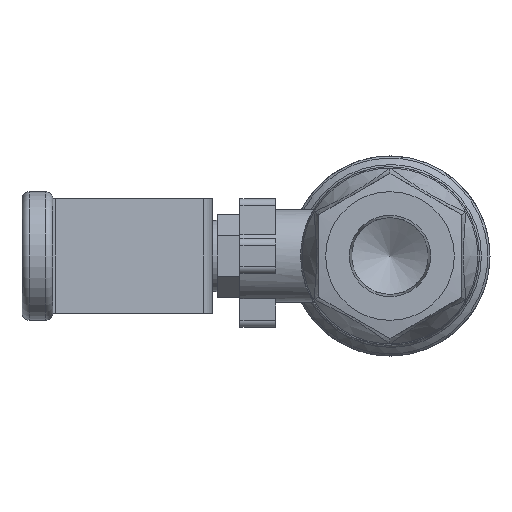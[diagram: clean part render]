
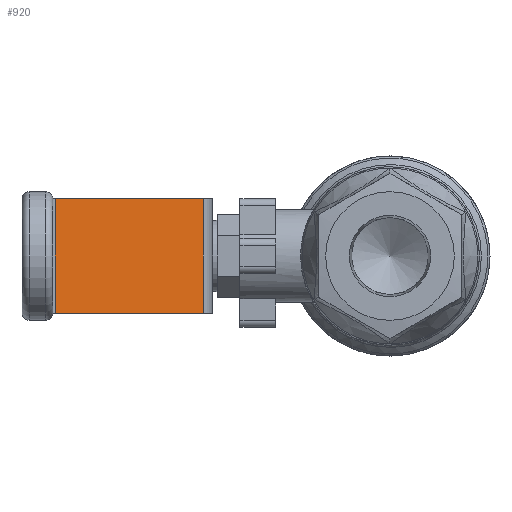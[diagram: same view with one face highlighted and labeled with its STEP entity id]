
A CAD part, left-side view. The second image highlights one B-rep face of the part: STEP entity #920.
In plain terms, the highlighted planar face has unit normal (-0.744, -0.668, 0) as drawn and (0.744, -0.668, 0) by its records, which use the part's own axes.
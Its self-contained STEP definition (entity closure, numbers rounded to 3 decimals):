
#459=CARTESIAN_POINT('',(30.334,22.072,-8.0));
#460=VERTEX_POINT('',#459);
#468=CARTESIAN_POINT('',(11.718,1.328,-8.0));
#469=VERTEX_POINT('',#468);
#470=CARTESIAN_POINT('',(11.718,1.328,-8.0));
#471=DIRECTION('',(0.668,0.744,0.0));
#472=VECTOR('',#471,27.872);
#473=LINE('',#470,#472);
#474=EDGE_CURVE('',#469,#460,#473,.T.);
#561=CARTESIAN_POINT('',(11.718,1.328,8.0));
#562=VERTEX_POINT('',#561);
#579=CARTESIAN_POINT('',(11.718,1.328,-8.0));
#580=DIRECTION('',(0.0,0.0,1.0));
#581=VECTOR('',#580,16.0);
#582=LINE('',#579,#581);
#583=EDGE_CURVE('',#469,#562,#582,.T.);
#651=CARTESIAN_POINT('',(30.334,22.072,8.0));
#652=VERTEX_POINT('',#651);
#653=CARTESIAN_POINT('',(30.334,22.072,8.0));
#654=DIRECTION('',(-0.668,-0.744,0.0));
#655=VECTOR('',#654,27.872);
#656=LINE('',#653,#655);
#657=EDGE_CURVE('',#652,#562,#656,.T.);
#733=CARTESIAN_POINT('',(30.334,22.072,8.0));
#734=DIRECTION('',(0.0,0.0,-1.0));
#735=VECTOR('',#734,16.0);
#736=LINE('',#733,#735);
#737=EDGE_CURVE('',#652,#460,#736,.T.);
#909=CARTESIAN_POINT('',(31.526,23.4,0.0));
#910=DIRECTION('',(0.744,-0.668,0.0));
#911=DIRECTION('',(0.0,0.0,-1.0));
#912=AXIS2_PLACEMENT_3D('',#909,#910,#911);
#913=PLANE('',#912);
#914=ORIENTED_EDGE('',*,*,#583,.F.);
#915=ORIENTED_EDGE('',*,*,#474,.T.);
#916=ORIENTED_EDGE('',*,*,#737,.F.);
#917=ORIENTED_EDGE('',*,*,#657,.T.);
#918=EDGE_LOOP('',(#914,#915,#916,#917));
#919=FACE_OUTER_BOUND('',#918,.T.);
#920=ADVANCED_FACE('',(#919),#913,.T.);
